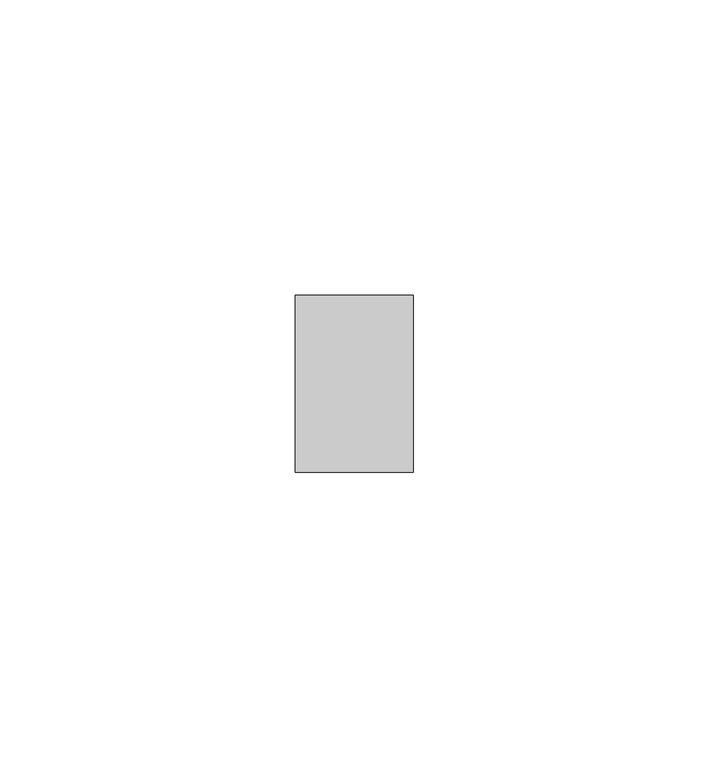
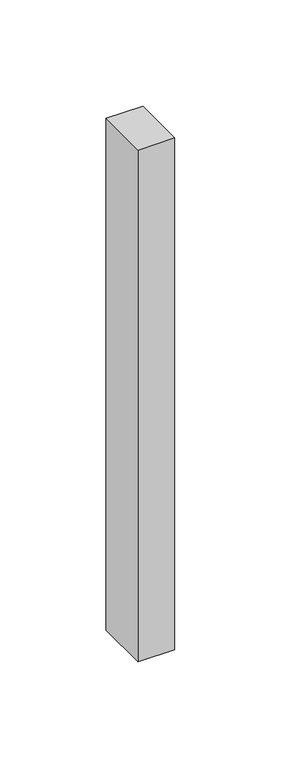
"""IFC4 building model written with IfcOpenShell, lengths in millimetres: member geometry, Прямоугольный импост : Квадрат 10 мм - Зазор между навесными плитами."""

from ifc_helpers import new_model, si_unit, frame, origin, place, context, project, spatial, polyline, outline, extrude, source, transform, mapped, element, save


def member_2eee0a59(model_context):
    return source(origin(), model_context, "Body", "SweptSolid", [
        extrude(outline(polyline([(0.0, 15.0), (0.0, -15.0), (-20.0, -15.0), (-20.0, 15.0), (0.0, 15.0)])), frame((0.0, 0.0, -294.0), z_axis=(0.0, 0.0, 1.0), x_axis=(1.0, 0.0, 0.0)), (0.0, 0.0, 1.0), 294.0),
    ])


if __name__ == "__main__":
    model = new_model("IFC4")
    model_context = context("Model", 3, world=origin())
    ifc_project = project(units=[si_unit("LENGTHUNIT", "METRE", prefix="MILLI")], contexts=[model_context])
    site = spatial("IfcSite", under=ifc_project)
    building = spatial("IfcBuilding", under=site)
    placement = place(None, origin())
    member_shape = member_2eee0a59(model_context)
    element("IfcMember", 1, ObjectType="Прямоугольный импост : Квадрат 10 мм - Зазор между навесными плитами", at=placement, inside=building, context=model_context, shape_type="MappedRepresentation", body=[
        mapped(member_shape, transform((0.0, 0.0, 0.0), x_axis=(1.0, 0.0, 0.0), y_axis=(0.0, 1.0, 0.0), z_axis=(0.0, 0.0, 1.0))),
    ])
    save(model, "model.ifc")
